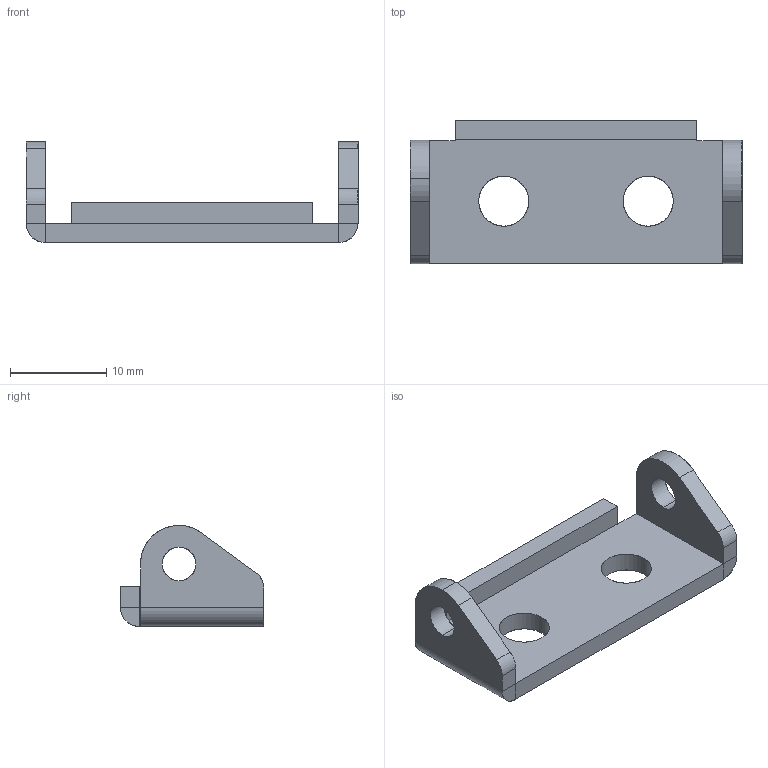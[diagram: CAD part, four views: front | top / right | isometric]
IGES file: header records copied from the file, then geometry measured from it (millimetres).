
Start section: SolidWorks IGES FILE using analytic representation for surfaces
Global section: file name: C:\Documents and Settings\brechard\Bureau\GE 85\85.020.00.IGS; native system: SolidWorks 2001Plus by SolidWorks Corporation; preprocessor: Version 5.3; author: brechard; date: 050126.113003; units: millimetre
Bounding box: 34.5 x 14.9 x 10.5 mm (x, y, z)
Surface area: 1625.8 mm2 (no closed solid volume)
Topology: 0 solids, 0 shells, 44 faces, 548 edges, 548 vertices
Faces by surface type: bspline 28, revolution 16
